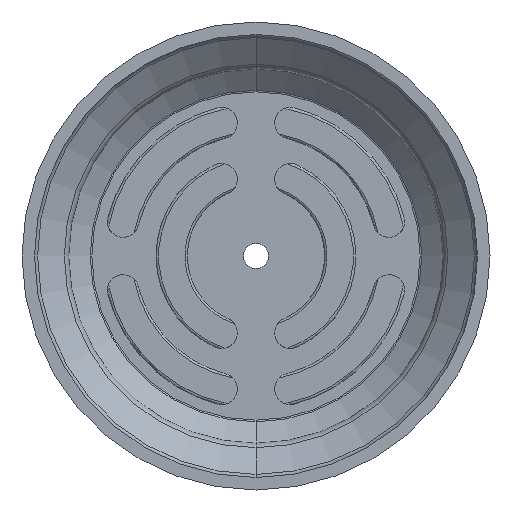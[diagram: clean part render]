
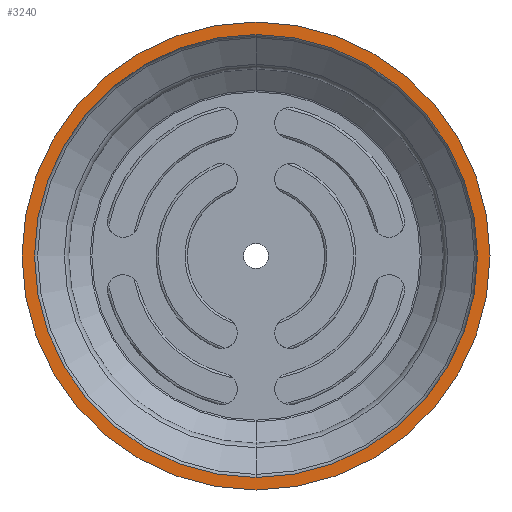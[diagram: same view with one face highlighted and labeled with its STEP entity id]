
A CAD part, front view. The second image highlights one B-rep face of the part: STEP entity #3240.
In plain terms, the highlighted planar face has unit normal (0, -1, 0).
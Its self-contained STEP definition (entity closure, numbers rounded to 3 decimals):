
#64 = CARTESIAN_POINT ( 'NONE',  ( 0., 0., 37.5 ) ) ;
#90 = FACE_OUTER_BOUND ( 'NONE', #1405, .T. ) ;
#100 = DIRECTION ( 'NONE',  ( 0., 1., 0. ) ) ;
#298 = DIRECTION ( 'NONE',  ( 0., 0., 1. ) ) ;
#424 = VERTEX_POINT ( 'NONE', #2657 ) ;
#586 = DIRECTION ( 'NONE',  ( 0., 1., 0. ) ) ;
#672 = VERTEX_POINT ( 'NONE', #3635 ) ;
#801 = AXIS2_PLACEMENT_3D ( 'NONE', #970, #586, #2253 ) ;
#856 = CARTESIAN_POINT ( 'NONE',  ( 0., 0., -35.5 ) ) ;
#900 = CIRCLE ( 'NONE', #3431, 37.5 ) ;
#903 = EDGE_CURVE ( 'NONE', #915, #424, #2156, .T. ) ;
#913 = DIRECTION ( 'NONE',  ( 0., 0., 1. ) ) ;
#915 = VERTEX_POINT ( 'NONE', #856 ) ;
#970 = CARTESIAN_POINT ( 'NONE',  ( 0., 0., 0. ) ) ;
#1175 = PLANE ( 'NONE',  #1798 ) ;
#1343 = EDGE_CURVE ( 'NONE', #672, #2908, #900, .T. ) ;
#1405 = EDGE_LOOP ( 'NONE', ( #1503, #1599 ) ) ;
#1450 = DIRECTION ( 'NONE',  ( 0., 0., 1. ) ) ;
#1477 = DIRECTION ( 'NONE',  ( 0., 1., 0. ) ) ;
#1503 = ORIENTED_EDGE ( 'NONE', *, *, #2967, .F. ) ;
#1509 = FACE_BOUND ( 'NONE', #2470, .T. ) ;
#1558 = EDGE_CURVE ( 'NONE', #424, #915, #2781, .T. ) ;
#1599 = ORIENTED_EDGE ( 'NONE', *, *, #1343, .F. ) ;
#1667 = DIRECTION ( 'NONE',  ( 0., 1., 0. ) ) ;
#1730 = ORIENTED_EDGE ( 'NONE', *, *, #1558, .T. ) ;
#1752 = CARTESIAN_POINT ( 'NONE',  ( 0., 0., 0. ) ) ;
#1798 = AXIS2_PLACEMENT_3D ( 'NONE', #2554, #2915, #1450 ) ;
#2156 = CIRCLE ( 'NONE', #801, 35.5 ) ;
#2221 = CIRCLE ( 'NONE', #3632, 37.5 ) ;
#2253 = DIRECTION ( 'NONE',  ( 0., 0., 1. ) ) ;
#2326 = DIRECTION ( 'NONE',  ( 0., 0., 1. ) ) ;
#2470 = EDGE_LOOP ( 'NONE', ( #1730, #3539 ) ) ;
#2554 = CARTESIAN_POINT ( 'NONE',  ( 37.5, 0., 0. ) ) ;
#2657 = CARTESIAN_POINT ( 'NONE',  ( 0., 0., 35.5 ) ) ;
#2781 = CIRCLE ( 'NONE', #2844, 35.5 ) ;
#2844 = AXIS2_PLACEMENT_3D ( 'NONE', #3587, #1667, #298 ) ;
#2868 = CARTESIAN_POINT ( 'NONE',  ( 0., 0., 0. ) ) ;
#2908 = VERTEX_POINT ( 'NONE', #64 ) ;
#2915 = DIRECTION ( 'NONE',  ( 0., 1., 0. ) ) ;
#2967 = EDGE_CURVE ( 'NONE', #2908, #672, #2221, .T. ) ;
#3240 = ADVANCED_FACE ( 'NONE', ( #90, #1509 ), #1175, .F. ) ;
#3431 = AXIS2_PLACEMENT_3D ( 'NONE', #1752, #1477, #2326 ) ;
#3539 = ORIENTED_EDGE ( 'NONE', *, *, #903, .T. ) ;
#3587 = CARTESIAN_POINT ( 'NONE',  ( 0., 0., 0. ) ) ;
#3632 = AXIS2_PLACEMENT_3D ( 'NONE', #2868, #100, #913 ) ;
#3635 = CARTESIAN_POINT ( 'NONE',  ( 0., 0., -37.5 ) ) ;
